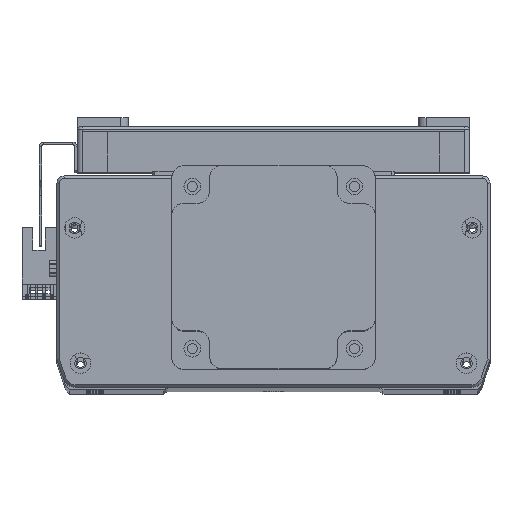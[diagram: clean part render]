
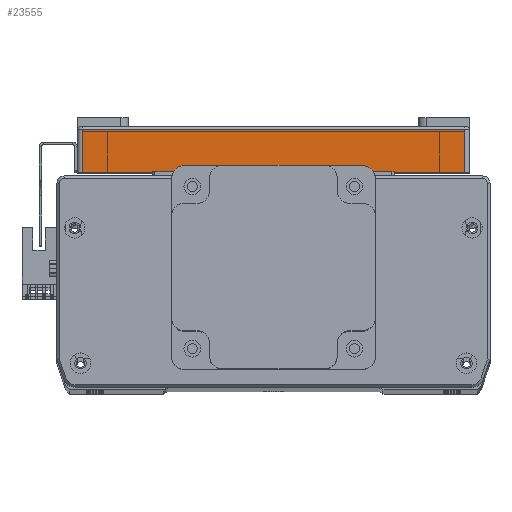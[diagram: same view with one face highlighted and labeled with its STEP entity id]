
A CAD part, top view. The second image highlights one B-rep face of the part: STEP entity #23555.
In plain terms, the highlighted planar face has unit normal (0, 0, 1) as drawn and (-1, 0, 0) by its records, which use the part's own axes.
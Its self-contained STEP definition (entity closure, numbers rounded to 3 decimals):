
#15497 = CARTESIAN_POINT ( 'NONE',  ( -115., 17., -75. ) ) ;
#15509 = CARTESIAN_POINT ( 'NONE',  ( -115., 0., 75. ) ) ;
#18282 = FACE_OUTER_BOUND ( 'NONE', #30070, .T. ) ;
#23555 = ADVANCED_FACE ( 'NONE', ( #18282 ), #36909, .F. ) ;
#25107 = CARTESIAN_POINT ( 'NONE',  ( -115., 0., -77. ) ) ;
#25117 = DIRECTION ( 'NONE',  ( 0., 0., 1. ) ) ;
#25186 = DIRECTION ( 'NONE',  ( 0., 0., -1. ) ) ;
#25220 = CARTESIAN_POINT ( 'NONE',  ( -115., 17., -75. ) ) ;
#25231 = CARTESIAN_POINT ( 'NONE',  ( -115., 18., 75. ) ) ;
#25260 = DIRECTION ( 'NONE',  ( 0., 1., 0. ) ) ;
#25284 = DIRECTION ( 'NONE',  ( 0., -1., 0. ) ) ;
#25292 = CARTESIAN_POINT ( 'NONE',  ( -115., 18., -75. ) ) ;
#28836 = VECTOR ( 'NONE', #25117, 1000. ) ;
#28927 = LINE ( 'NONE', #25107, #28836 ) ;
#29020 = LINE ( 'NONE', #25220, #29037 ) ;
#29037 = VECTOR ( 'NONE', #25186, 1000. ) ;
#29128 = LINE ( 'NONE', #25231, #29180 ) ;
#29139 = LINE ( 'NONE', #25292, #29223 ) ;
#29180 = VECTOR ( 'NONE', #25260, 1000. ) ;
#29223 = VECTOR ( 'NONE', #25284, 1000. ) ;
#30070 = EDGE_LOOP ( 'NONE', ( #35234, #35208, #35196, #35189 ) ) ;
#35189 = ORIENTED_EDGE ( 'NONE', *, *, #54294, .T. ) ;
#35196 = ORIENTED_EDGE ( 'NONE', *, *, #54359, .T. ) ;
#35208 = ORIENTED_EDGE ( 'NONE', *, *, #54335, .T. ) ;
#35234 = ORIENTED_EDGE ( 'NONE', *, *, #54354, .T. ) ;
#36867 = DIRECTION ( 'NONE',  ( 1., 0., 0. ) ) ;
#36909 = PLANE ( 'NONE',  #46783 ) ;
#36920 = CARTESIAN_POINT ( 'NONE',  ( -115., 18., -77. ) ) ;
#36927 = DIRECTION ( 'NONE',  ( 0., 0., -1. ) ) ;
#46783 = AXIS2_PLACEMENT_3D ( 'NONE', #36920, #36867, #36927 ) ;
#54294 = EDGE_CURVE ( 'NONE', #58405, #58472, #28927, .T. ) ;
#54335 = EDGE_CURVE ( 'NONE', #58393, #58480, #29020, .T. ) ;
#54354 = EDGE_CURVE ( 'NONE', #58472, #58393, #29128, .T. ) ;
#54359 = EDGE_CURVE ( 'NONE', #58480, #58405, #29139, .T. ) ;
#58061 = CARTESIAN_POINT ( 'NONE',  ( -115., 0., -75. ) ) ;
#58070 = CARTESIAN_POINT ( 'NONE',  ( -115., 17., 75. ) ) ;
#58393 = VERTEX_POINT ( 'NONE', #58070 ) ;
#58405 = VERTEX_POINT ( 'NONE', #58061 ) ;
#58472 = VERTEX_POINT ( 'NONE', #15509 ) ;
#58480 = VERTEX_POINT ( 'NONE', #15497 ) ;
